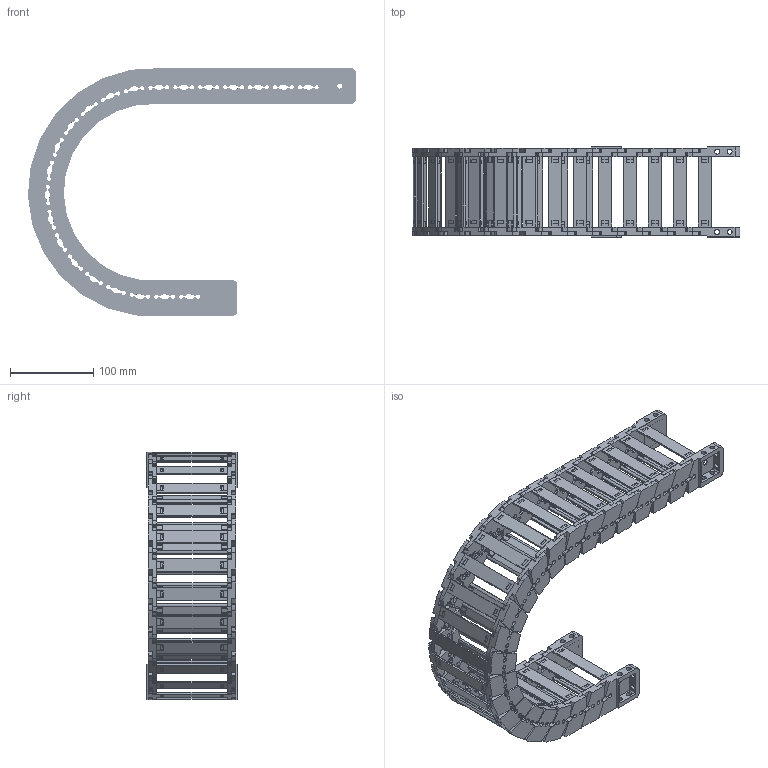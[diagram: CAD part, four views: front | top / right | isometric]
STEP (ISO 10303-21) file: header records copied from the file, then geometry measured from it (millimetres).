
FILE_DESCRIPTION((''),'2;1');
FILE_NAME('JY-35X77-R125_ASM','2025-07-23T16:04:12',('admin'),(''),'CREO PARAMETRIC BY PTC INC, 2021023','CREO PARAMETRIC BY PTC INC, 2021023','');
FILE_SCHEMA(('CONFIG_CONTROL_DESIGN','GEOMETRIC_VALIDATION_PROPERTIES_MIM'));
Length unit declared in the file: millimetre
Products named in the file (12): 35XL-L_1; YP_2; 35XL-R_1; ASM0001_ASM_2_ASM; 35-LTT-A-L_1; 35-LTT-A-R_1; 35XL-LTT-A_ASM_2_ASM; 35-LTT-B-L_1; 35-LTT-B-R_1; 35XL-LTT-B_ASM_2_ASM; JY-35X77-R125_ASM_6_ASM; JY-35X77-R125_ASM
Assembly tree (36 placements, depth 4):
  JY-35X77-R125_ASM
    JY-35X77-R125_ASM_6_ASM
      ASM0001_ASM_2_ASM  x21
        35XL-L_1
        YP_2
        35XL-R_1
      35XL-LTT-A_ASM_2_ASM
        35-LTT-A-L_1
        YP_2  x2
        35-LTT-A-R_1
      35XL-LTT-B_ASM_2_ASM
        35-LTT-B-L_1
        YP_2  x2
        35-LTT-B-R_1
Bounding box: 395.09 x 108.9 x 298.23 mm (x, y, z)
Volume: 699554.6 mm3; surface area: 415274.3 mm2
Topology: 92 solids, 92 shells, 5988 faces, 17991 edges, 12103 vertices
Faces by surface type: plane 3142, cylinder 2450, extrusion 176, bspline 132, cone 88
Entity records: 24420 total; most frequent: CARTESIAN_POINT 5409, ORIENTED_EDGE 3882, DIRECTION 3678, EDGE_CURVE 1941, VERTEX_POINT 1303, AXIS2_PLACEMENT_3D 1245, VECTOR 1188, LINE 1172
